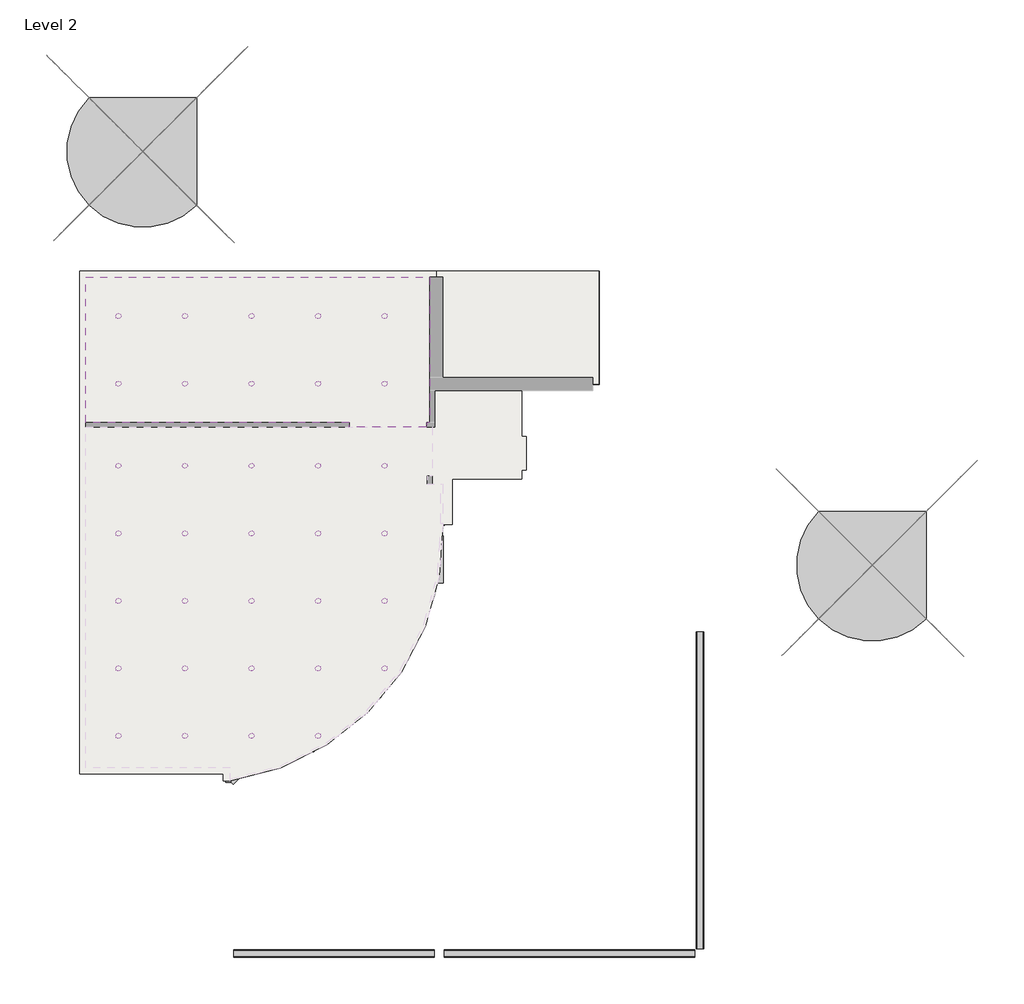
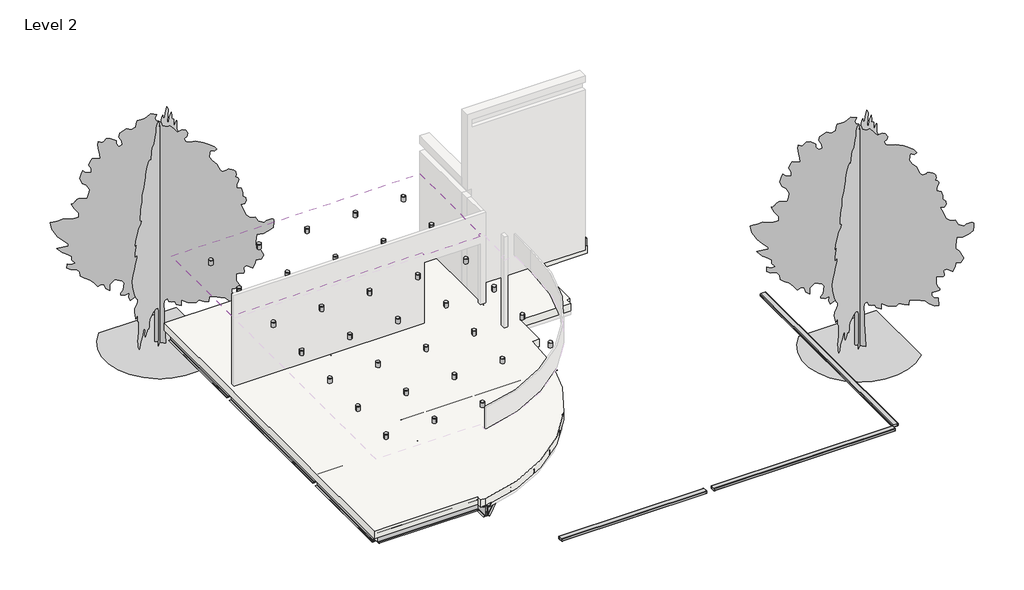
# One storey, part 2 of 2: 42 beams, 34 light fixtures, 2 geographic elements, 1 covering, 1 roof, 1 slab.
"""IFC4 building model written with IfcOpenShell, lengths in millimetres."""

from ifc_helpers import new_model, si_unit, point, frame, frame_2d, origin, place, context, project, spatial, polyline, circle_curve, trimmed, segment, composite_curve, outline, extrude, faceted_brep, transform, mapped, element, save
from ifc_brep_helpers import plane_surface, cylinder_surface, advanced_brep
from components import c_channel_c6x8_2_cf8d55a1, c_channel_c6x8_2_52b4a7a8, c_channel_c6x8_2_4cab7d2d, c_channel_c6x8_2_ec91256f, c_channel_c6x8_2_3719a647, c_channel_c6x8_2_7d483b76, hss_hollow_structural_section_hss8x4x3_8_72c25d39, hss_hollow_structural_section_hss8x4x3_8_104aa16b, hss_hollow_structural_section_hss8x4x3_8_b920de6b, k_series_bar_joist_rod_web_16k2_991e5e47, k_series_bar_joist_rod_web_20k4_3f3eeb71, w_wide_flange_w16x26_a72f614c, w_wide_flange_w16x26_9c3d3023, w_wide_flange_w16x26_148a8972, w_wide_flange_w16x26_0c83cf25, w_wide_flange_w16x26_0b9ed303, w_wide_flange_w16x26_0532e526, w_wide_flange_w16x26_7b0e4888, w_wide_flange_w16x26_9456430b, w_wide_flange_w16x26_394d27fb, w_wide_flange_w16x26_6db211b0, w_wide_flange_w24x68_473e50b6, w_wide_flange_w24x68_1052d64c, rpc_tree_deciduous1_red_maple_cba750cc, m_downlight_recessed_can_152mm_incandescent_120v_9e946963

model = new_model("IFC4")

# Units and contexts
model_context = context("Model", 3, world=origin())
ifc_project = project(units=[si_unit("LENGTHUNIT", "METRE", prefix="MILLI")], contexts=[model_context])

# Site, building, storey
site = spatial("IfcSite", under=ifc_project)
building = spatial("IfcBuilding", under=site)
storey = spatial("IfcBuildingStorey", under=building, Name="Level 2", Elevation=49378.0)

# Beams
placement = place(None, origin())
c_channel_c6x8_2_shape = c_channel_c6x8_2_cf8d55a1(model_context)
element("IfcBeam", 1, ObjectType="C-Channel : C6X8.2", at=placement, inside=storey, context=model_context, shape_type="MappedRepresentation", body=[
    mapped(c_channel_c6x8_2_shape, transform((-5213.4523008, 1924.378114, 49174.8), x_axis=(0.7071067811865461, -0.7071067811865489, 0.0), y_axis=(0.7071067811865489, 0.7071067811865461, 0.0), z_axis=(0.0, 0.0, 1.0))),
])
c_channel_c6x8_2_2_shape = c_channel_c6x8_2_52b4a7a8(model_context)
element("IfcBeam", 2, ObjectType="C-Channel : C6X8.2", at=placement, inside=storey, context=model_context, shape_type="MappedRepresentation", body=[
    mapped(c_channel_c6x8_2_2_shape, transform((-9397.6765056, -2163.1833658, 49174.8), x_axis=(0.7071067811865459, -0.7071067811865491, 0.0), y_axis=(0.7071067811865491, 0.7071067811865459, 0.0), z_axis=(0.0, 0.0, 1.0))),
])
c_channel_c6x8_2_3_shape = c_channel_c6x8_2_4cab7d2d(model_context)
element("IfcBeam", 3, ObjectType="C-Channel : C6X8.2", at=placement, inside=storey, context=model_context, shape_type="MappedRepresentation", body=[
    mapped(c_channel_c6x8_2_3_shape, transform((-8326.2701207, 74.1245232, 49174.8), x_axis=(0.707106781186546, -0.707106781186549, 0.0), y_axis=(0.707106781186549, 0.707106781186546, 0.0), z_axis=(0.0, 0.0, 1.0))),
])
c_channel_c6x8_2_4_shape = c_channel_c6x8_2_ec91256f(model_context)
element("IfcBeam", 4, ObjectType="C-Channel : C6X8.2", at=placement, inside=storey, context=model_context, shape_type="MappedRepresentation", body=[
    mapped(c_channel_c6x8_2_4_shape, transform((-7491.7530218, 893.9645612, 49174.8), x_axis=(0.7071067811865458, -0.7071067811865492, 0.0), y_axis=(0.7071067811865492, 0.7071067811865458, 0.0), z_axis=(0.0, 0.0, 1.0))),
])
c_channel_c6x8_2_5_shape = c_channel_c6x8_2_3719a647(model_context)
element("IfcBeam", 5, ObjectType="C-Channel : C6X8.2", at=placement, inside=storey, context=model_context, shape_type="MappedRepresentation", body=[
    mapped(c_channel_c6x8_2_5_shape, transform((-6314.2389485, 1371.0374918, 49174.8), x_axis=(0.7071067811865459, -0.7071067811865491, 0.0), y_axis=(0.7071067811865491, 0.7071067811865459, 0.0), z_axis=(0.0, 0.0, 1.0))),
])
c_channel_c6x8_2_6_shape = c_channel_c6x8_2_7d483b76(model_context)
element("IfcBeam", 6, ObjectType="C-Channel : C6X8.2", at=placement, inside=storey, context=model_context, shape_type="MappedRepresentation", body=[
    mapped(c_channel_c6x8_2_6_shape, transform((-8818.0127286, -1088.4900059, 49174.8), x_axis=(0.707106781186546, -0.707106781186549, 0.0), y_axis=(0.707106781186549, 0.707106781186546, 0.0), z_axis=(0.0, 0.0, 1.0))),
])
hss_hollow_structural_section_hss8x4x3_8_shape = hss_hollow_structural_section_hss8x4x3_8_72c25d39(model_context)
element("IfcBeam", 7, ObjectType="HSS-Hollow Structural Section : HSS8X4X3/8", at=placement, inside=storey, context=model_context, shape_type="MappedRepresentation", body=[
    mapped(hss_hollow_structural_section_hss8x4x3_8_shape, transform((-7091.6417239, -7829.9373862, 50597.2), x_axis=(1.0, 0.0, 0.0), y_axis=(0.0, 0.0, -1.0), z_axis=(0.0, 1.0, 0.0))),
])
hss_hollow_structural_section_hss8x4x3_8_2_shape = hss_hollow_structural_section_hss8x4x3_8_104aa16b(model_context)
element("IfcBeam", 8, ObjectType="HSS-Hollow Structural Section : HSS8X4X3/8", at=placement, inside=storey, context=model_context, shape_type="MappedRepresentation", body=[
    mapped(hss_hollow_structural_section_hss8x4x3_8_2_shape, transform((-665.4417239, -7829.9373862, 50597.2), x_axis=(1.0, 0.0, 0.0), y_axis=(0.0, 0.0, -1.0), z_axis=(0.0, 1.0, 0.0))),
])
hss_hollow_structural_section_hss8x4x3_8_3_shape = hss_hollow_structural_section_hss8x4x3_8_b920de6b(model_context)
element("IfcBeam", 9, ObjectType="HSS-Hollow Structural Section : HSS8X4X3/8", at=placement, inside=storey, context=model_context, shape_type="MappedRepresentation", body=[
    mapped(hss_hollow_structural_section_hss8x4x3_8_3_shape, transform((2956.9686928, -3341.9866918, 50597.2), x_axis=(0.0, 1.0, 0.0), y_axis=(0.0, 0.0, -1.0), z_axis=(-1.0, 0.0, 0.0))),
])
k_series_bar_joist_rod_web_16k2_shape = k_series_bar_joist_rod_web_16k2_991e5e47(model_context)
element("IfcBeam", 10, ObjectType="K-Series Bar Joist-Rod Web : 16K2", at=placement, inside=storey, context=model_context, shape_type="MappedRepresentation", body=[
    mapped(k_series_bar_joist_rod_web_16k2_shape, transform((-11978.2313072, 9806.3938638, 49047.8), x_axis=(1.0, 0.0, 0.0), y_axis=(0.0, 1.0, 0.0), z_axis=(0.0, 0.0, 1.0))),
])
element("IfcBeam", 11, ObjectType="K-Series Bar Joist-Rod Web : 16K2", at=placement, inside=storey, context=model_context, shape_type="MappedRepresentation", body=[
    mapped(k_series_bar_joist_rod_web_16k2_shape, transform((-11978.2313072, 8810.2376138, 49047.8), x_axis=(1.0, 0.0, 0.0), y_axis=(0.0, 1.0, 0.0), z_axis=(0.0, 0.0, 1.0))),
])
element("IfcBeam", 12, ObjectType="K-Series Bar Joist-Rod Web : 16K2", at=placement, inside=storey, context=model_context, shape_type="MappedRepresentation", body=[
    mapped(k_series_bar_joist_rod_web_16k2_shape, transform((-11978.2313072, 7814.0813638, 49047.8), x_axis=(1.0, 0.0, 0.0), y_axis=(0.0, 1.0, 0.0), z_axis=(0.0, 0.0, 1.0))),
])
element("IfcBeam", 13, ObjectType="K-Series Bar Joist-Rod Web : 16K2", at=placement, inside=storey, context=model_context, shape_type="MappedRepresentation", body=[
    mapped(k_series_bar_joist_rod_web_16k2_shape, transform((-11978.2313072, 166.8292804, 49047.8), x_axis=(1.0, 0.0, 0.0), y_axis=(0.0, 1.0, 0.0), z_axis=(0.0, 0.0, 1.0))),
])
element("IfcBeam", 14, ObjectType="K-Series Bar Joist-Rod Web : 16K2", at=placement, inside=storey, context=model_context, shape_type="MappedRepresentation", body=[
    mapped(k_series_bar_joist_rod_web_16k2_shape, transform((-11978.2313072, -812.3054418, 49047.8), x_axis=(1.0, 0.0, 0.0), y_axis=(0.0, 1.0, 0.0), z_axis=(0.0, 0.0, 1.0))),
])
element("IfcBeam", 15, ObjectType="K-Series Bar Joist-Rod Web : 16K2", at=placement, inside=storey, context=model_context, shape_type="MappedRepresentation", body=[
    mapped(k_series_bar_joist_rod_web_16k2_shape, transform((-11978.2313072, 5683.5328916, 49047.8), x_axis=(1.0, 0.0, 0.0), y_axis=(0.0, 1.0, 0.0), z_axis=(0.0, 0.0, 1.0))),
])
element("IfcBeam", 16, ObjectType="K-Series Bar Joist-Rod Web : 16K2", at=placement, inside=storey, context=model_context, shape_type="MappedRepresentation", body=[
    mapped(k_series_bar_joist_rod_web_16k2_shape, transform((-11978.2313072, 4549.1406693, 49047.8), x_axis=(1.0, 0.0, 0.0), y_axis=(0.0, 1.0, 0.0), z_axis=(0.0, 0.0, 1.0))),
])
element("IfcBeam", 17, ObjectType="K-Series Bar Joist-Rod Web : 16K2", at=placement, inside=storey, context=model_context, shape_type="MappedRepresentation", body=[
    mapped(k_series_bar_joist_rod_web_16k2_shape, transform((-11978.2313072, 3414.7484471, 49047.8), x_axis=(1.0, 0.0, 0.0), y_axis=(0.0, 1.0, 0.0), z_axis=(0.0, 0.0, 1.0))),
])
element("IfcBeam", 18, ObjectType="K-Series Bar Joist-Rod Web : 16K2", at=placement, inside=storey, context=model_context, shape_type="MappedRepresentation", body=[
    mapped(k_series_bar_joist_rod_web_16k2_shape, transform((-11978.2313072, 2280.3562249, 49047.8), x_axis=(1.0, 0.0, 0.0), y_axis=(0.0, 1.0, 0.0), z_axis=(0.0, 0.0, 1.0))),
])
element("IfcBeam", 19, ObjectType="K-Series Bar Joist-Rod Web : 16K2", at=placement, inside=storey, context=model_context, shape_type="MappedRepresentation", body=[
    mapped(k_series_bar_joist_rod_web_16k2_shape, transform((-11978.2313072, -1791.440164, 49047.8), x_axis=(1.0, 0.0, 0.0), y_axis=(0.0, 1.0, 0.0), z_axis=(0.0, 0.0, 1.0))),
])
k_series_bar_joist_rod_web_20k4_shape = k_series_bar_joist_rod_web_20k4_3f3eeb71(model_context)
element("IfcBeam", 20, ObjectType="K-Series Bar Joist-Rod Web : 20K4", at=placement, inside=storey, context=model_context, shape_type="MappedRepresentation", body=[
    mapped(k_series_bar_joist_rod_web_20k4_shape, transform((-7091.6417239, 9806.3938638, 48997.0), x_axis=(1.0, 0.0, 0.0), y_axis=(0.0, 1.0, 0.0), z_axis=(0.0, 0.0, 1.0))),
])
element("IfcBeam", 21, ObjectType="K-Series Bar Joist-Rod Web : 20K4", at=placement, inside=storey, context=model_context, shape_type="MappedRepresentation", body=[
    mapped(k_series_bar_joist_rod_web_20k4_shape, transform((-7091.6417239, 8810.2376138, 48997.0), x_axis=(1.0, 0.0, 0.0), y_axis=(0.0, 1.0, 0.0), z_axis=(0.0, 0.0, 1.0))),
])
element("IfcBeam", 22, ObjectType="K-Series Bar Joist-Rod Web : 20K4", at=placement, inside=storey, context=model_context, shape_type="MappedRepresentation", body=[
    mapped(k_series_bar_joist_rod_web_20k4_shape, transform((-7091.6417239, 7814.0813638, 48997.0), x_axis=(1.0, 0.0, 0.0), y_axis=(0.0, 1.0, 0.0), z_axis=(0.0, 0.0, 1.0))),
])
element("IfcBeam", 23, ObjectType="K-Series Bar Joist-Rod Web : 20K4", at=placement, inside=storey, context=model_context, shape_type="MappedRepresentation", body=[
    mapped(k_series_bar_joist_rod_web_20k4_shape, transform((-7091.6417239, 5756.3186433, 48997.0), x_axis=(1.0, 0.0, 0.0), y_axis=(0.0, 1.0, 0.0), z_axis=(0.0, 0.0, 1.0))),
])
element("IfcBeam", 24, ObjectType="K-Series Bar Joist-Rod Web : 20K4", at=placement, inside=storey, context=model_context, shape_type="MappedRepresentation", body=[
    mapped(k_series_bar_joist_rod_web_20k4_shape, transform((-7091.6417239, 4694.7121727, 48997.0), x_axis=(1.0, 0.0, 0.0), y_axis=(0.0, 1.0, 0.0), z_axis=(0.0, 0.0, 1.0))),
])
element("IfcBeam", 25, ObjectType="K-Series Bar Joist-Rod Web : 20K4", at=placement, inside=storey, context=model_context, shape_type="MappedRepresentation", body=[
    mapped(k_series_bar_joist_rod_web_20k4_shape, transform((-7091.6417239, 3633.1057022, 48997.0), x_axis=(1.0, 0.0, 0.0), y_axis=(0.0, 1.0, 0.0), z_axis=(0.0, 0.0, 1.0))),
])
w_wide_flange_w16x26_shape = w_wide_flange_w16x26_a72f614c(model_context)
element("IfcBeam", 26, ObjectType="W-Wide Flange : W16X26", at=placement, inside=storey, context=model_context, shape_type="MappedRepresentation", body=[
    mapped(w_wide_flange_w16x26_shape, transform((-7101.4313072, 2571.4992317, 48899.3191406), x_axis=(1.0, 0.0, 0.0), y_axis=(0.0, 1.0, 0.0), z_axis=(0.0, 0.0, 1.0))),
])
w_wide_flange_w16x26_2_shape = w_wide_flange_w16x26_9c3d3023(model_context)
element("IfcBeam", 27, ObjectType="W-Wide Flange : W16X26", at=placement, inside=storey, context=model_context, shape_type="MappedRepresentation", body=[
    mapped(w_wide_flange_w16x26_2_shape, transform((-9997.0313072, -1036.8683828, 48899.3191406), x_axis=(0.0, 1.0, 0.0), y_axis=(-1.0, 0.0, 0.0), z_axis=(0.0, 0.0, 1.0))),
])
w_wide_flange_w16x26_3_shape = w_wide_flange_w16x26_148a8972(model_context)
element("IfcBeam", 28, ObjectType="W-Wide Flange : W16X26", at=placement, inside=storey, context=model_context, shape_type="MappedRepresentation", body=[
    mapped(w_wide_flange_w16x26_3_shape, transform((-9997.0313072, 3981.9445582, 48899.3191406), x_axis=(0.0, 1.0, 0.0), y_axis=(-1.0, 0.0, 0.0), z_axis=(0.0, 0.0, 1.0))),
])
element("IfcBeam", 29, ObjectType="W-Wide Flange : W16X26", at=placement, inside=storey, context=model_context, shape_type="MappedRepresentation", body=[
    mapped(w_wide_flange_w16x26_3_shape, transform((-13959.4313072, 3981.9445582, 48988.2191406), x_axis=(0.0, 1.0, 0.0), y_axis=(-1.0, 0.0, 0.0), z_axis=(0.0, 0.0, 1.0))),
])
w_wide_flange_w16x26_4_shape = w_wide_flange_w16x26_0c83cf25(model_context)
element("IfcBeam", 30, ObjectType="W-Wide Flange : W16X26", at=placement, inside=storey, context=model_context, shape_type="MappedRepresentation", body=[
    mapped(w_wide_flange_w16x26_4_shape, transform((-9997.0313072, 8810.2376138, 48988.2191406), x_axis=(0.0, 1.0, 0.0), y_axis=(-1.0, 0.0, 0.0), z_axis=(0.0, 0.0, 1.0))),
])
element("IfcBeam", 31, ObjectType="W-Wide Flange : W16X26", at=placement, inside=storey, context=model_context, shape_type="MappedRepresentation", body=[
    mapped(w_wide_flange_w16x26_4_shape, transform((-13959.4313072, 8810.2376138, 48988.2191406), x_axis=(0.0, 1.0, 0.0), y_axis=(-1.0, 0.0, 0.0), z_axis=(0.0, 0.0, 1.0))),
])
element("IfcBeam", 32, ObjectType="W-Wide Flange : W16X26", at=placement, inside=storey, context=model_context, shape_type="MappedRepresentation", body=[
    mapped(w_wide_flange_w16x26_4_shape, transform((-4186.2521405, 8810.2376138, 48988.2191406), x_axis=(0.0, 1.0, 0.0), y_axis=(-1.0, 0.0, 0.0), z_axis=(0.0, 0.0, 1.0))),
])
w_wide_flange_w16x26_5_shape = w_wide_flange_w16x26_0b9ed303(model_context)
element("IfcBeam", 33, ObjectType="W-Wide Flange : W16X26", at=placement, inside=storey, context=model_context, shape_type="MappedRepresentation", body=[
    mapped(w_wide_flange_w16x26_5_shape, transform((-13959.4313072, -812.3054418, 48988.2191406), x_axis=(0.0, 1.0, 0.0), y_axis=(-1.0, 0.0, 0.0), z_axis=(0.0, 0.0, 1.0))),
])
w_wide_flange_w16x26_6_shape = w_wide_flange_w16x26_0532e526(model_context)
element("IfcBeam", 34, ObjectType="W-Wide Flange : W16X26", at=placement, inside=storey, context=model_context, shape_type="MappedRepresentation", body=[
    mapped(w_wide_flange_w16x26_6_shape, transform((-11978.2313072, -2770.5748862, 48988.2191406), x_axis=(1.0, 0.0, 0.0), y_axis=(0.0, 1.0, 0.0), z_axis=(0.0, 0.0, 1.0))),
])
w_wide_flange_w16x26_7_shape = w_wide_flange_w16x26_7b0e4888(model_context)
element("IfcBeam", 35, ObjectType="W-Wide Flange : W16X26", at=placement, inside=storey, context=model_context, shape_type="MappedRepresentation", body=[
    mapped(w_wide_flange_w16x26_7_shape, transform((-11978.2313072, 1145.9640027, 48988.2191406), x_axis=(1.0, 0.0, 0.0), y_axis=(0.0, 1.0, 0.0), z_axis=(0.0, 0.0, 1.0))),
])
element("IfcBeam", 36, ObjectType="W-Wide Flange : W16X26", at=placement, inside=storey, context=model_context, shape_type="MappedRepresentation", body=[
    mapped(w_wide_flange_w16x26_7_shape, transform((-11978.2313072, 6817.9251138, 48988.2191406), x_axis=(1.0, 0.0, 0.0), y_axis=(0.0, 1.0, 0.0), z_axis=(0.0, 0.0, 1.0))),
])
element("IfcBeam", 37, ObjectType="W-Wide Flange : W16X26", at=placement, inside=storey, context=model_context, shape_type="MappedRepresentation", body=[
    mapped(w_wide_flange_w16x26_7_shape, transform((-11978.2313072, 10802.5501138, 48988.2191406), x_axis=(1.0, 0.0, 0.0), y_axis=(0.0, 1.0, 0.0), z_axis=(0.0, 0.0, 1.0))),
])
w_wide_flange_w16x26_8_shape = w_wide_flange_w16x26_9456430b(model_context)
element("IfcBeam", 38, ObjectType="W-Wide Flange : W16X26", at=placement, inside=storey, context=model_context, shape_type="MappedRepresentation", body=[
    mapped(w_wide_flange_w16x26_8_shape, transform((-7101.4313072, 6817.9251138, 48988.2191406), x_axis=(1.0, 0.0, 0.0), y_axis=(0.0, 1.0, 0.0), z_axis=(0.0, 0.0, 1.0))),
])
w_wide_flange_w16x26_9_shape = w_wide_flange_w16x26_394d27fb(model_context)
element("IfcBeam", 39, ObjectType="W-Wide Flange : W16X26", at=placement, inside=storey, context=model_context, shape_type="MappedRepresentation", body=[
    mapped(w_wide_flange_w16x26_9_shape, transform((-7091.6417239, 10802.5501138, 48988.2191406), x_axis=(1.0, 0.0, 0.0), y_axis=(0.0, 1.0, 0.0), z_axis=(0.0, 0.0, 1.0))),
])
w_wide_flange_w16x26_10_shape = w_wide_flange_w16x26_6db211b0(model_context)
element("IfcBeam", 40, ObjectType="W-Wide Flange : W16X26", at=placement, inside=storey, context=model_context, shape_type="MappedRepresentation", body=[
    mapped(w_wide_flange_w16x26_10_shape, transform((-7101.4313072, -323.4221431, 48899.3191406), x_axis=(-0.7071896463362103, -0.707023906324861, 0.0), y_axis=(0.707023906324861, -0.7071896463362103, 0.0), z_axis=(0.0, 0.0, 1.0))),
])
w_wide_flange_w24x68_shape = w_wide_flange_w24x68_473e50b6(model_context)
element("IfcBeam", 41, ObjectType="W-Wide Flange : W24X68", at=placement, inside=storey, context=model_context, shape_type="MappedRepresentation", body=[
    mapped(w_wide_flange_w24x68_shape, transform((-4186.2521405, 5304.3121727, 48886.51), x_axis=(0.0, -1.0, 0.0), y_axis=(1.0, 0.0, 0.0), z_axis=(0.0, 0.0, 1.0))),
])
w_wide_flange_w24x68_2_shape = w_wide_flange_w24x68_1052d64c(model_context)
element("IfcBeam", 42, ObjectType="W-Wide Flange : W24X68", at=placement, inside=storey, context=model_context, shape_type="MappedRepresentation", body=[
    mapped(w_wide_flange_w24x68_2_shape, transform((-4205.8313072, 3181.0992317, 48886.51), x_axis=(0.0, -1.0, 0.0), y_axis=(1.0, 0.0, 0.0), z_axis=(0.0, 0.0, 1.0))),
])

# Covering
element("IfcCovering", 43, ObjectType="Plain", at=placement, inside=storey, context=model_context, shape_type="SweptSolid", body=[
    extrude(outline(polyline([(-13914.2313072, 10757.3501138), (-4463.0063072, 10757.3501138), (-4463.0063072, 6762.1948262), (-4551.9063072, 6762.1948262), (-4551.9063072, 6635.1448262), (-6685.5063072, 6635.1448262), (-6685.5063072, 6762.1948262), (-13914.2313072, 6762.1948262), (-13914.2313072, 10757.3501138)]), holes=[composite_curve([segment(trimmed(circle_curve(frame_2d((-13021.2188072, 9688.1251138)), 75.0), [point((-13096.2188072, 9688.1251138))], [point((-12946.2188072, 9688.1251138))], True, "CARTESIAN"), True, "CONTINUOUS"), segment(trimmed(circle_curve(frame_2d((-13021.2188072, 9688.1251138)), 75.0), [point((-12946.2188072, 9688.1251138))], [point((-13096.2188072, 9688.1251138))], True, "CARTESIAN"), True, "CONTINUOUS")], self_intersect=False), composite_curve([segment(trimmed(circle_curve(frame_2d((-13021.2188072, 7828.9698262)), 75.0), [point((-13096.2188072, 7828.9698262))], [point((-12946.2188072, 7828.9698262))], True, "CARTESIAN"), True, "CONTINUOUS"), segment(trimmed(circle_curve(frame_2d((-13021.2188072, 7828.9698262)), 75.0), [point((-12946.2188072, 7828.9698262))], [point((-13096.2188072, 7828.9698262))], True, "CARTESIAN"), True, "CONTINUOUS")], self_intersect=False), composite_curve([segment(trimmed(circle_curve(frame_2d((-11192.4188072, 9688.1251138)), 75.0), [point((-11267.4188072, 9688.1251138))], [point((-11117.4188072, 9688.1251138))], True, "CARTESIAN"), True, "CONTINUOUS"), segment(trimmed(circle_curve(frame_2d((-11192.4188072, 9688.1251138)), 75.0), [point((-11117.4188072, 9688.1251138))], [point((-11267.4188072, 9688.1251138))], True, "CARTESIAN"), True, "CONTINUOUS")], self_intersect=False), composite_curve([segment(trimmed(circle_curve(frame_2d((-11192.4188072, 7828.9698262)), 75.0), [point((-11267.4188072, 7828.9698262))], [point((-11117.4188072, 7828.9698262))], True, "CARTESIAN"), True, "CONTINUOUS"), segment(trimmed(circle_curve(frame_2d((-11192.4188072, 7828.9698262)), 75.0), [point((-11117.4188072, 7828.9698262))], [point((-11267.4188072, 7828.9698262))], True, "CARTESIAN"), True, "CONTINUOUS")], self_intersect=False), composite_curve([segment(trimmed(circle_curve(frame_2d((-9363.6188072, 9688.1251138)), 75.0), [point((-9438.6188072, 9688.1251138))], [point((-9288.6188072, 9688.1251138))], True, "CARTESIAN"), True, "CONTINUOUS"), segment(trimmed(circle_curve(frame_2d((-9363.6188072, 9688.1251138)), 75.0), [point((-9288.6188072, 9688.1251138))], [point((-9438.6188072, 9688.1251138))], True, "CARTESIAN"), True, "CONTINUOUS")], self_intersect=False), composite_curve([segment(trimmed(circle_curve(frame_2d((-9363.6188072, 7828.9698262)), 75.0), [point((-9438.6188072, 7828.9698262))], [point((-9288.6188072, 7828.9698262))], True, "CARTESIAN"), True, "CONTINUOUS"), segment(trimmed(circle_curve(frame_2d((-9363.6188072, 7828.9698262)), 75.0), [point((-9288.6188072, 7828.9698262))], [point((-9438.6188072, 7828.9698262))], True, "CARTESIAN"), True, "CONTINUOUS")], self_intersect=False), composite_curve([segment(trimmed(circle_curve(frame_2d((-7534.8188072, 9688.1251138)), 75.0), [point((-7609.8188072, 9688.1251138))], [point((-7459.8188072, 9688.1251138))], True, "CARTESIAN"), True, "CONTINUOUS"), segment(trimmed(circle_curve(frame_2d((-7534.8188072, 9688.1251138)), 75.0), [point((-7459.8188072, 9688.1251138))], [point((-7609.8188072, 9688.1251138))], True, "CARTESIAN"), True, "CONTINUOUS")], self_intersect=False), composite_curve([segment(trimmed(circle_curve(frame_2d((-7534.8188072, 7828.9698262)), 75.0), [point((-7609.8188072, 7828.9698262))], [point((-7459.8188072, 7828.9698262))], True, "CARTESIAN"), True, "CONTINUOUS"), segment(trimmed(circle_curve(frame_2d((-7534.8188072, 7828.9698262)), 75.0), [point((-7459.8188072, 7828.9698262))], [point((-7609.8188072, 7828.9698262))], True, "CARTESIAN"), True, "CONTINUOUS")], self_intersect=False), composite_curve([segment(trimmed(circle_curve(frame_2d((-5706.0188072, 9688.1251138)), 75.0), [point((-5781.0188072, 9688.1251138))], [point((-5631.0188072, 9688.1251138))], True, "CARTESIAN"), True, "CONTINUOUS"), segment(trimmed(circle_curve(frame_2d((-5706.0188072, 9688.1251138)), 75.0), [point((-5631.0188072, 9688.1251138))], [point((-5781.0188072, 9688.1251138))], True, "CARTESIAN"), True, "CONTINUOUS")], self_intersect=False), composite_curve([segment(trimmed(circle_curve(frame_2d((-5706.0188072, 7828.9698262)), 75.0), [point((-5781.0188072, 7828.9698262))], [point((-5631.0188072, 7828.9698262))], True, "CARTESIAN"), True, "CONTINUOUS"), segment(trimmed(circle_curve(frame_2d((-5706.0188072, 7828.9698262)), 75.0), [point((-5631.0188072, 7828.9698262))], [point((-5781.0188072, 7828.9698262))], True, "CARTESIAN"), True, "CONTINUOUS")], self_intersect=False)]), frame((0.0, 0.0, 52120.8), z_axis=(0.0, 0.0, 1.0), x_axis=(1.0, 0.0, 0.0)), (0.0, 0.0, 1.0), 57.0),
])

# Geographic elements
rpc_tree_deciduous1_red_maple_shape = rpc_tree_deciduous1_red_maple_cba750cc(model_context)
element("IfcGeographicElement", 44, ObjectType="RPC Tree - Deciduous1 : Red Maple", at=placement, inside=storey, context=model_context, shape_type="MappedRepresentation", body=[
    mapped(rpc_tree_deciduous1_red_maple_shape, transform((7694.1737816, 2842.2559699, 45743.3142898), x_axis=(0.7071067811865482, -0.7071067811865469, 0.0), y_axis=(0.7071067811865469, 0.7071067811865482, 0.0), z_axis=(0.0, 0.0, 1.0))),
])
element("IfcGeographicElement", 45, ObjectType="RPC Tree - Deciduous1 : Red Maple", at=placement, inside=storey, context=model_context, shape_type="MappedRepresentation", body=[
    mapped(rpc_tree_deciduous1_red_maple_shape, transform((-12347.4287657, 14212.7915202, 45997.5377533), x_axis=(0.7071067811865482, -0.7071067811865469, 0.0), y_axis=(0.7071067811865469, 0.7071067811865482, 0.0), z_axis=(0.0, 0.0, 1.0))),
])

# Light fixtures
m_downlight_recessed_can_152mm_incandescent_120v_shape = m_downlight_recessed_can_152mm_incandescent_120v_9e946963(model_context)
element("IfcLightFixture", 46, ObjectType="M_Downlight - Recessed Can : 152mm Incandescent - 120V", at=placement, inside=storey, context=model_context, shape_type="MappedRepresentation", body=[
    mapped(m_downlight_recessed_can_152mm_incandescent_120v_shape, transform((-13021.2188072, 5573.3251138, 49682.4), x_axis=(1.0, 0.0, 0.0), y_axis=(0.0, 1.0, 0.0), z_axis=(0.0, 0.0, 1.0))),
])
element("IfcLightFixture", 47, ObjectType="M_Downlight - Recessed Can : 152mm Incandescent - 120V", at=placement, inside=storey, context=model_context, shape_type="MappedRepresentation", body=[
    mapped(m_downlight_recessed_can_152mm_incandescent_120v_shape, transform((-13021.2188072, 3714.1698262, 49682.4), x_axis=(1.0, 0.0, 0.0), y_axis=(0.0, 1.0, 0.0), z_axis=(0.0, 0.0, 1.0))),
])
element("IfcLightFixture", 48, ObjectType="M_Downlight - Recessed Can : 152mm Incandescent - 120V", at=placement, inside=storey, context=model_context, shape_type="MappedRepresentation", body=[
    mapped(m_downlight_recessed_can_152mm_incandescent_120v_shape, transform((-11192.4188072, 5573.3251138, 49682.4), x_axis=(1.0, 0.0, 0.0), y_axis=(0.0, 1.0, 0.0), z_axis=(0.0, 0.0, 1.0))),
])
element("IfcLightFixture", 49, ObjectType="M_Downlight - Recessed Can : 152mm Incandescent - 120V", at=placement, inside=storey, context=model_context, shape_type="MappedRepresentation", body=[
    mapped(m_downlight_recessed_can_152mm_incandescent_120v_shape, transform((-11192.4188072, 3714.1698262, 49682.4), x_axis=(1.0, 0.0, 0.0), y_axis=(0.0, 1.0, 0.0), z_axis=(0.0, 0.0, 1.0))),
])
element("IfcLightFixture", 50, ObjectType="M_Downlight - Recessed Can : 152mm Incandescent - 120V", at=placement, inside=storey, context=model_context, shape_type="MappedRepresentation", body=[
    mapped(m_downlight_recessed_can_152mm_incandescent_120v_shape, transform((-9363.6188072, 5573.3251138, 49682.4), x_axis=(1.0, 0.0, 0.0), y_axis=(0.0, 1.0, 0.0), z_axis=(0.0, 0.0, 1.0))),
])
element("IfcLightFixture", 51, ObjectType="M_Downlight - Recessed Can : 152mm Incandescent - 120V", at=placement, inside=storey, context=model_context, shape_type="MappedRepresentation", body=[
    mapped(m_downlight_recessed_can_152mm_incandescent_120v_shape, transform((-9363.6188072, 3714.1698262, 49682.4), x_axis=(1.0, 0.0, 0.0), y_axis=(0.0, 1.0, 0.0), z_axis=(0.0, 0.0, 1.0))),
])
element("IfcLightFixture", 52, ObjectType="M_Downlight - Recessed Can : 152mm Incandescent - 120V", at=placement, inside=storey, context=model_context, shape_type="MappedRepresentation", body=[
    mapped(m_downlight_recessed_can_152mm_incandescent_120v_shape, transform((-7534.8188072, 5573.3251138, 49682.4), x_axis=(1.0, 0.0, 0.0), y_axis=(0.0, 1.0, 0.0), z_axis=(0.0, 0.0, 1.0))),
])
element("IfcLightFixture", 53, ObjectType="M_Downlight - Recessed Can : 152mm Incandescent - 120V", at=placement, inside=storey, context=model_context, shape_type="MappedRepresentation", body=[
    mapped(m_downlight_recessed_can_152mm_incandescent_120v_shape, transform((-7534.8188072, 3714.1698262, 49682.4), x_axis=(1.0, 0.0, 0.0), y_axis=(0.0, 1.0, 0.0), z_axis=(0.0, 0.0, 1.0))),
])
element("IfcLightFixture", 54, ObjectType="M_Downlight - Recessed Can : 152mm Incandescent - 120V", at=placement, inside=storey, context=model_context, shape_type="MappedRepresentation", body=[
    mapped(m_downlight_recessed_can_152mm_incandescent_120v_shape, transform((-5706.0188072, 5573.3251138, 49682.4), x_axis=(1.0, 0.0, 0.0), y_axis=(0.0, 1.0, 0.0), z_axis=(0.0, 0.0, 1.0))),
])
element("IfcLightFixture", 55, ObjectType="M_Downlight - Recessed Can : 152mm Incandescent - 120V", at=placement, inside=storey, context=model_context, shape_type="MappedRepresentation", body=[
    mapped(m_downlight_recessed_can_152mm_incandescent_120v_shape, transform((-5706.0188072, 3714.1698262, 49682.4), x_axis=(1.0, 0.0, 0.0), y_axis=(0.0, 1.0, 0.0), z_axis=(0.0, 0.0, 1.0))),
])
element("IfcLightFixture", 56, ObjectType="M_Downlight - Recessed Can : 152mm Incandescent - 120V", at=placement, inside=storey, context=model_context, shape_type="MappedRepresentation", body=[
    mapped(m_downlight_recessed_can_152mm_incandescent_120v_shape, transform((-13021.2188072, 1859.9698262, 49682.4), x_axis=(1.0, 0.0, 0.0), y_axis=(0.0, 1.0, 0.0), z_axis=(0.0, 0.0, 1.0))),
])
element("IfcLightFixture", 57, ObjectType="M_Downlight - Recessed Can : 152mm Incandescent - 120V", at=placement, inside=storey, context=model_context, shape_type="MappedRepresentation", body=[
    mapped(m_downlight_recessed_can_152mm_incandescent_120v_shape, transform((-11192.4188072, 1859.9698262, 49682.4), x_axis=(1.0, 0.0, 0.0), y_axis=(0.0, 1.0, 0.0), z_axis=(0.0, 0.0, 1.0))),
])
element("IfcLightFixture", 58, ObjectType="M_Downlight - Recessed Can : 152mm Incandescent - 120V", at=placement, inside=storey, context=model_context, shape_type="MappedRepresentation", body=[
    mapped(m_downlight_recessed_can_152mm_incandescent_120v_shape, transform((-9363.6188072, 1859.9698262, 49682.4), x_axis=(1.0, 0.0, 0.0), y_axis=(0.0, 1.0, 0.0), z_axis=(0.0, 0.0, 1.0))),
])
element("IfcLightFixture", 59, ObjectType="M_Downlight - Recessed Can : 152mm Incandescent - 120V", at=placement, inside=storey, context=model_context, shape_type="MappedRepresentation", body=[
    mapped(m_downlight_recessed_can_152mm_incandescent_120v_shape, transform((-7534.8188072, 1859.9698262, 49682.4), x_axis=(1.0, 0.0, 0.0), y_axis=(0.0, 1.0, 0.0), z_axis=(0.0, 0.0, 1.0))),
])
element("IfcLightFixture", 60, ObjectType="M_Downlight - Recessed Can : 152mm Incandescent - 120V", at=placement, inside=storey, context=model_context, shape_type="MappedRepresentation", body=[
    mapped(m_downlight_recessed_can_152mm_incandescent_120v_shape, transform((-5706.0188072, 1859.9698262, 49682.4), x_axis=(1.0, 0.0, 0.0), y_axis=(0.0, 1.0, 0.0), z_axis=(0.0, 0.0, 1.0))),
])
element("IfcLightFixture", 61, ObjectType="M_Downlight - Recessed Can : 152mm Incandescent - 120V", at=placement, inside=storey, context=model_context, shape_type="MappedRepresentation", body=[
    mapped(m_downlight_recessed_can_152mm_incandescent_120v_shape, transform((-13021.2188072, 5.7698262, 49682.4), x_axis=(1.0, 0.0, 0.0), y_axis=(0.0, 1.0, 0.0), z_axis=(0.0, 0.0, 1.0))),
])
element("IfcLightFixture", 62, ObjectType="M_Downlight - Recessed Can : 152mm Incandescent - 120V", at=placement, inside=storey, context=model_context, shape_type="MappedRepresentation", body=[
    mapped(m_downlight_recessed_can_152mm_incandescent_120v_shape, transform((-11192.4188072, 5.7698262, 49682.4), x_axis=(1.0, 0.0, 0.0), y_axis=(0.0, 1.0, 0.0), z_axis=(0.0, 0.0, 1.0))),
])
element("IfcLightFixture", 63, ObjectType="M_Downlight - Recessed Can : 152mm Incandescent - 120V", at=placement, inside=storey, context=model_context, shape_type="MappedRepresentation", body=[
    mapped(m_downlight_recessed_can_152mm_incandescent_120v_shape, transform((-9363.6188072, 5.7698262, 49682.4), x_axis=(1.0, 0.0, 0.0), y_axis=(0.0, 1.0, 0.0), z_axis=(0.0, 0.0, 1.0))),
])
element("IfcLightFixture", 64, ObjectType="M_Downlight - Recessed Can : 152mm Incandescent - 120V", at=placement, inside=storey, context=model_context, shape_type="MappedRepresentation", body=[
    mapped(m_downlight_recessed_can_152mm_incandescent_120v_shape, transform((-7534.8188072, 5.7698262, 49682.4), x_axis=(1.0, 0.0, 0.0), y_axis=(0.0, 1.0, 0.0), z_axis=(0.0, 0.0, 1.0))),
])
element("IfcLightFixture", 65, ObjectType="M_Downlight - Recessed Can : 152mm Incandescent - 120V", at=placement, inside=storey, context=model_context, shape_type="MappedRepresentation", body=[
    mapped(m_downlight_recessed_can_152mm_incandescent_120v_shape, transform((-13021.2188072, -1848.4301738, 49682.4), x_axis=(1.0, 0.0, 0.0), y_axis=(0.0, 1.0, 0.0), z_axis=(0.0, 0.0, 1.0))),
])
element("IfcLightFixture", 66, ObjectType="M_Downlight - Recessed Can : 152mm Incandescent - 120V", at=placement, inside=storey, context=model_context, shape_type="MappedRepresentation", body=[
    mapped(m_downlight_recessed_can_152mm_incandescent_120v_shape, transform((-11192.4188072, -1848.4301738, 49682.4), x_axis=(1.0, 0.0, 0.0), y_axis=(0.0, 1.0, 0.0), z_axis=(0.0, 0.0, 1.0))),
])
element("IfcLightFixture", 67, ObjectType="M_Downlight - Recessed Can : 152mm Incandescent - 120V", at=placement, inside=storey, context=model_context, shape_type="MappedRepresentation", body=[
    mapped(m_downlight_recessed_can_152mm_incandescent_120v_shape, transform((-9363.6188072, -1848.4301738, 49682.4), x_axis=(1.0, 0.0, 0.0), y_axis=(0.0, 1.0, 0.0), z_axis=(0.0, 0.0, 1.0))),
])
element("IfcLightFixture", 68, ObjectType="M_Downlight - Recessed Can : 152mm Incandescent - 120V", at=placement, inside=storey, context=model_context, shape_type="MappedRepresentation", body=[
    mapped(m_downlight_recessed_can_152mm_incandescent_120v_shape, transform((-7534.8188072, -1848.4301738, 49682.4), x_axis=(1.0, 0.0, 0.0), y_axis=(0.0, 1.0, 0.0), z_axis=(0.0, 0.0, 1.0))),
])
element("IfcLightFixture", 69, ObjectType="M_Downlight - Recessed Can : 152mm Incandescent - 120V", at=placement, inside=storey, context=model_context, shape_type="MappedRepresentation", body=[
    mapped(m_downlight_recessed_can_152mm_incandescent_120v_shape, transform((-5706.0188072, 5.7698262, 49682.4), x_axis=(1.0, 0.0, 0.0), y_axis=(0.0, 1.0, 0.0), z_axis=(0.0, 0.0, 1.0))),
])
element("IfcLightFixture", 70, ObjectType="M_Downlight - Recessed Can : 152mm Incandescent - 120V", at=placement, inside=storey, context=model_context, shape_type="MappedRepresentation", body=[
    mapped(m_downlight_recessed_can_152mm_incandescent_120v_shape, transform((-13021.2188072, 9688.1251138, 49682.4), x_axis=(1.0, 0.0, 0.0), y_axis=(0.0, 1.0, 0.0), z_axis=(0.0, 0.0, 1.0))),
])
element("IfcLightFixture", 71, ObjectType="M_Downlight - Recessed Can : 152mm Incandescent - 120V", at=placement, inside=storey, context=model_context, shape_type="MappedRepresentation", body=[
    mapped(m_downlight_recessed_can_152mm_incandescent_120v_shape, transform((-13021.2188072, 7828.9698262, 49682.4), x_axis=(1.0, 0.0, 0.0), y_axis=(0.0, 1.0, 0.0), z_axis=(0.0, 0.0, 1.0))),
])
element("IfcLightFixture", 72, ObjectType="M_Downlight - Recessed Can : 152mm Incandescent - 120V", at=placement, inside=storey, context=model_context, shape_type="MappedRepresentation", body=[
    mapped(m_downlight_recessed_can_152mm_incandescent_120v_shape, transform((-11192.4188072, 9688.1251138, 49682.4), x_axis=(1.0, 0.0, 0.0), y_axis=(0.0, 1.0, 0.0), z_axis=(0.0, 0.0, 1.0))),
])
element("IfcLightFixture", 73, ObjectType="M_Downlight - Recessed Can : 152mm Incandescent - 120V", at=placement, inside=storey, context=model_context, shape_type="MappedRepresentation", body=[
    mapped(m_downlight_recessed_can_152mm_incandescent_120v_shape, transform((-11192.4188072, 7828.9698262, 49682.4), x_axis=(1.0, 0.0, 0.0), y_axis=(0.0, 1.0, 0.0), z_axis=(0.0, 0.0, 1.0))),
])
element("IfcLightFixture", 74, ObjectType="M_Downlight - Recessed Can : 152mm Incandescent - 120V", at=placement, inside=storey, context=model_context, shape_type="MappedRepresentation", body=[
    mapped(m_downlight_recessed_can_152mm_incandescent_120v_shape, transform((-9363.6188072, 9688.1251138, 49682.4), x_axis=(1.0, 0.0, 0.0), y_axis=(0.0, 1.0, 0.0), z_axis=(0.0, 0.0, 1.0))),
])
element("IfcLightFixture", 75, ObjectType="M_Downlight - Recessed Can : 152mm Incandescent - 120V", at=placement, inside=storey, context=model_context, shape_type="MappedRepresentation", body=[
    mapped(m_downlight_recessed_can_152mm_incandescent_120v_shape, transform((-9363.6188072, 7828.9698262, 49682.4), x_axis=(1.0, 0.0, 0.0), y_axis=(0.0, 1.0, 0.0), z_axis=(0.0, 0.0, 1.0))),
])
element("IfcLightFixture", 76, ObjectType="M_Downlight - Recessed Can : 152mm Incandescent - 120V", at=placement, inside=storey, context=model_context, shape_type="MappedRepresentation", body=[
    mapped(m_downlight_recessed_can_152mm_incandescent_120v_shape, transform((-7534.8188072, 9688.1251138, 49682.4), x_axis=(1.0, 0.0, 0.0), y_axis=(0.0, 1.0, 0.0), z_axis=(0.0, 0.0, 1.0))),
])
element("IfcLightFixture", 77, ObjectType="M_Downlight - Recessed Can : 152mm Incandescent - 120V", at=placement, inside=storey, context=model_context, shape_type="MappedRepresentation", body=[
    mapped(m_downlight_recessed_can_152mm_incandescent_120v_shape, transform((-7534.8188072, 7828.9698262, 49682.4), x_axis=(1.0, 0.0, 0.0), y_axis=(0.0, 1.0, 0.0), z_axis=(0.0, 0.0, 1.0))),
])
element("IfcLightFixture", 78, ObjectType="M_Downlight - Recessed Can : 152mm Incandescent - 120V", at=placement, inside=storey, context=model_context, shape_type="MappedRepresentation", body=[
    mapped(m_downlight_recessed_can_152mm_incandescent_120v_shape, transform((-5706.0188072, 9688.1251138, 49682.4), x_axis=(1.0, 0.0, 0.0), y_axis=(0.0, 1.0, 0.0), z_axis=(0.0, 0.0, 1.0))),
])
element("IfcLightFixture", 79, ObjectType="M_Downlight - Recessed Can : 152mm Incandescent - 120V", at=placement, inside=storey, context=model_context, shape_type="MappedRepresentation", body=[
    mapped(m_downlight_recessed_can_152mm_incandescent_120v_shape, transform((-5706.0188072, 7828.9698262, 49682.4), x_axis=(1.0, 0.0, 0.0), y_axis=(0.0, 1.0, 0.0), z_axis=(0.0, 0.0, 1.0))),
])

# Roof
element("IfcRoof", 80, ObjectType="Generic - 300mm", at=placement, inside=storey, context=model_context, shape_type="Brep", body=[
    faceted_brep([(-4278.8563072, 10920.0251138, 49377.6), (-4110.1063072, 10920.0251138, 49377.6), (178.8436928, 10920.0251138, 49377.6), (178.8436928, 10757.3501138, 49377.6), (178.8436928, 7819.6376138, 49377.6), (-4278.8563072, 7819.6376138, 49377.6), (178.8436928, 10920.0251138, 49677.6), (-4110.1063072, 10920.0251138, 49677.6), (-4278.8563072, 10920.0251138, 49677.6), (-4278.8563072, 7819.6376138, 49677.6), (178.8436928, 7819.6376138, 49677.6), (178.8436928, 10757.3501138, 49677.6)], [[[0, 1, 2, 3, 4, 5]], [[6, 7, 8, 9, 10, 11]], [[8, 7, 6, 2, 1, 0]], [[6, 11, 10, 4, 3, 2]], [[10, 9, 5, 4]], [[9, 8, 0, 5]]]),
])

# Slab
element("IfcSlab", 81, ObjectType="Generic 300mm", at=placement, inside=storey, context=model_context, shape_type="AdvancedBrep", body=[
    advanced_brep(
    [(-14079.2313072, 10922.3501138, 49077.6), (-13914.2313072, 10922.3501138, 49077.6), (-4286.5563072, 10922.3501138, 49077.6), (191.1686928, 10922.3501138, 49077.6), (191.1686928, 7810.8501138, 49077.6), (-1942.0813072, 7810.8501138, 49077.6), (-1942.0813072, 6373.4251138, 49077.6), (-1815.0313072, 6373.4251138, 49077.6), (-1815.0313072, 5459.0251138, 49077.6), (-1942.0813072, 5459.0251138, 49077.6), (-1942.0813072, 5205.0501138, 49077.6), (-3847.0563072, 5205.0501138, 49077.6), (-3847.0563072, 5078.0001138, 49077.6), (-3847.0563072, 3960.4251138, 49077.6), (-4058.4805054, 3960.4251138, 49077.6), (-4109.5153553, 3960.4251138, 49077.6), (-9944.2046852, -3081.7248862, 49077.6), (-10135.1438072, -3081.7248862, 49077.6), (-10135.1438072, -3075.3748862, 49077.6), (-10135.1438072, -2890.3748862, 49077.6), (-13914.2313072, -2890.3748862, 49077.6), (-14079.2313072, -2890.3748862, 49077.6), (-14079.2313072, 10922.3501138, 49377.6), (-14079.2313072, -2890.3748862, 49377.6), (-13914.2313072, -2890.3748862, 49377.6), (-10135.1438072, -2890.3748862, 49377.6), (-10135.1438072, -3075.3748862, 49377.6), (-10135.1438072, -3081.7248862, 49377.6), (-9944.2046852, -3081.7248862, 49377.6), (-4109.5153553, 3960.4251138, 49377.6), (-4058.4805054, 3960.4251138, 49377.6), (-3847.0563072, 3960.4251138, 49377.6), (-3847.0563072, 5078.0001138, 49377.6), (-3847.0563072, 5205.0501138, 49377.6), (-1942.0813072, 5205.0501138, 49377.6), (-1942.0813072, 5459.0251138, 49377.6), (-1815.0313072, 5459.0251138, 49377.6), (-1815.0313072, 6373.4251138, 49377.6), (-1942.0813072, 6373.4251138, 49377.6), (-1942.0813072, 7642.9501138, 49377.6), (-1942.0813072, 7643.4001138, 49377.6), (-1942.0813072, 7810.8501138, 49377.6), (191.1686928, 7810.8501138, 49377.6), (191.1686928, 10922.3501138, 49377.6), (-4286.5563072, 10922.3501138, 49377.6), (-13914.2313072, 10922.3501138, 49377.6)],
    [
        (0, 1),
        (1, 2),
        (2, 3),
        (3, 4),
        (4, 5),
        (5, 6),
        (6, 7),
        (7, 8),
        (8, 9),
        (9, 10),
        (10, 11),
        (11, 12),
        (12, 13),
        (13, 14),
        (14, 15),
        (15, 16, circle_curve(frame((-10969.3383655, 3705.8434908, 49077.6), z_axis=(0.0, 0.0, -1.0), x_axis=(1.0, 0.0, 0.0)), 6864.545399)),
        (16, 17),
        (17, 18),
        (18, 19),
        (19, 20),
        (20, 21),
        (21, 0),
        (22, 23),
        (23, 24),
        (24, 25),
        (25, 26),
        (26, 27),
        (27, 28),
        (28, 29, circle_curve(frame((-10969.3383655, 3705.8434908, 49377.6), z_axis=(0.0, 0.0, 1.0), x_axis=(1.0, 0.0, 0.0)), 6864.545399)),
        (29, 30),
        (30, 31),
        (31, 32),
        (32, 33),
        (33, 34),
        (34, 35),
        (35, 36),
        (36, 37),
        (37, 38),
        (38, 39),
        (39, 40),
        (40, 41),
        (41, 42),
        (42, 43),
        (43, 44),
        (44, 45),
        (45, 22),
        (0, 22),
        (43, 3),
        (19, 25),
        (23, 21),
        (15, 29),
        (28, 16),
        (27, 17),
        (5, 41),
        (38, 6),
        (37, 7),
        (36, 8),
        (35, 9),
        (34, 10),
        (33, 11),
        (31, 13),
        (42, 4),
    ],
    [
        plane_surface(frame((-14079.2313072, 10922.3501138, 49077.6), z_axis=(0.0, 0.0, -1.0), x_axis=(1.0, 0.0, 0.0))),
        plane_surface(frame((-14079.2313072, 10922.3501138, 49377.6), z_axis=(0.0, 0.0, 1.0), x_axis=(-1.0, 0.0, 0.0))),
        plane_surface(frame((-14079.2313072, 10922.3501138, 49077.6), z_axis=(0.0, 1.0, 0.0), x_axis=(0.0, 0.0, 1.0))),
        plane_surface(frame((-10135.1438072, -2890.3748862, 49077.6), z_axis=(0.0, -1.0, 0.0), x_axis=(0.0, 0.0, 1.0))),
        plane_surface(frame((-14079.2313072, -2890.3748862, 49077.6), z_axis=(-1.0, 0.0, 0.0), x_axis=(0.0, 0.0, 1.0))),
        cylinder_surface(frame((-10969.3383655, 3705.8434908, 49377.6), z_axis=(0.0, 0.0, -1.0), x_axis=(1.0, 0.0, 0.0)), 6864.545399),
        plane_surface(frame((-9944.2046852, -3081.7248862, 49077.6), z_axis=(0.0, -1.0, 0.0), x_axis=(0.0, 0.0, 1.0))),
        plane_surface(frame((-10135.1438072, -3081.7248862, 49077.6), z_axis=(-1.0, 0.0, 0.0), x_axis=(0.0, 0.0, 1.0))),
        plane_surface(frame((-1942.0813072, 7810.8501138, 49077.6), z_axis=(1.0, 0.0, 0.0), x_axis=(0.0, 0.0, 1.0))),
        plane_surface(frame((-1942.0813072, 6373.4251138, 49077.6), z_axis=(0.0, 1.0, 0.0), x_axis=(0.0, 0.0, 1.0))),
        plane_surface(frame((-1815.0313072, 6373.4251138, 49077.6), z_axis=(1.0, 0.0, 0.0), x_axis=(0.0, 0.0, 1.0))),
        plane_surface(frame((-1815.0313072, 5459.0251138, 49077.6), z_axis=(0.0, -1.0, 0.0), x_axis=(0.0, 0.0, 1.0))),
        plane_surface(frame((-1942.0813072, 5459.0251138, 49077.6), z_axis=(1.0, 0.0, 0.0), x_axis=(0.0, 0.0, 1.0))),
        plane_surface(frame((-1942.0813072, 5205.0501138, 49077.6), z_axis=(0.0, -1.0, 0.0), x_axis=(0.0, 0.0, 1.0))),
        plane_surface(frame((-3847.0563072, 5205.0501138, 49077.6), z_axis=(1.0, 0.0, 0.0), x_axis=(0.0, 0.0, 1.0))),
        plane_surface(frame((-3847.0563072, 3960.4251138, 49077.6), z_axis=(0.0, -1.0, 0.0), x_axis=(0.0, 0.0, 1.0))),
        plane_surface(frame((191.1686928, 10922.3501138, 49077.6), z_axis=(1.0, 0.0, 0.0), x_axis=(0.0, 0.0, 1.0))),
        plane_surface(frame((191.1686928, 7810.8501138, 49077.6), z_axis=(0.0, -1.0, 0.0), x_axis=(0.0, 0.0, 1.0))),
    ],
    [
        (0, [[1, 2, 3, 4, 5, 6, 7, 8, 9, 10, 11, 12, 13, 14, 15, 16, 17, 18, 19, 20, 21, 22]]),
        (1, [[23, 24, 25, 26, 27, 28, 29, 30, 31, 32, 33, 34, 35, 36, 37, 38, 39, 40, 41, 42, 43, 44, 45, 46]]),
        (2, [[-3, -2, -1, 47, -46, -45, -44, 48]]),
        (3, [[-21, -20, 49, -25, -24, 50]]),
        (4, [[-22, -50, -23, -47]]),
        (5, [[-16, 51, -29, 52]]),
        (6, [[-17, -52, -28, 53]]),
        (7, [[-19, -18, -53, -27, -26, -49]]),
        (8, [[-6, 54, -41, -40, -39, 55]]),
        (9, [[-7, -55, -38, 56]]),
        (10, [[-8, -56, -37, 57]]),
        (11, [[-9, -57, -36, 58]]),
        (12, [[-10, -58, -35, 59]]),
        (13, [[-11, -59, -34, 60]]),
        (14, [[-13, -12, -60, -33, -32, 61]]),
        (15, [[-15, -14, -61, -31, -30, -51]]),
        (16, [[-4, -48, -43, 62]]),
        (17, [[-5, -62, -42, -54]]),
    ],
),
])

save(model, "model.ifc")
